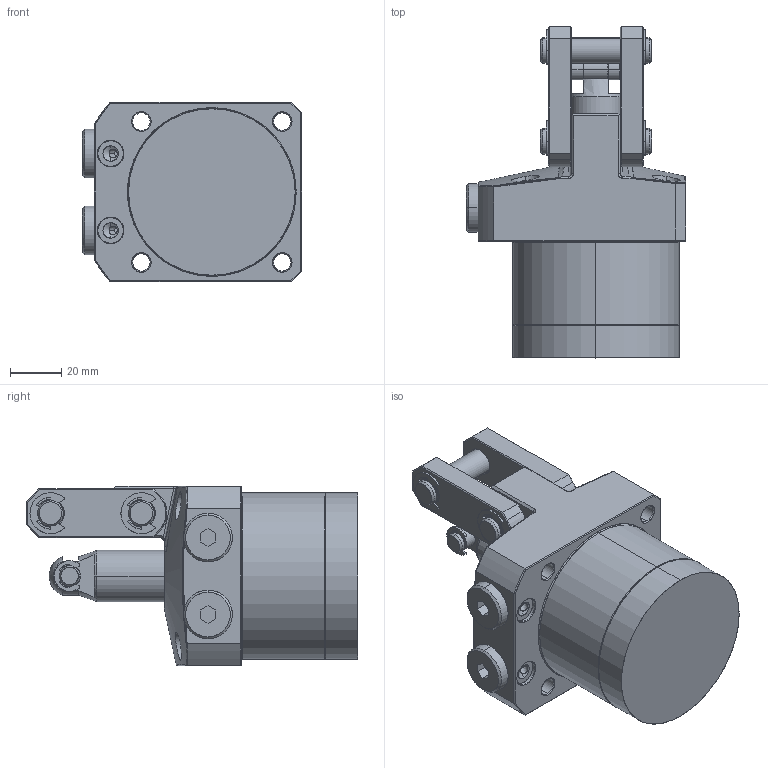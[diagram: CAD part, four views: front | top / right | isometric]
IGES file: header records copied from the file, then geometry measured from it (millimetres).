
Start section: SolidWorks IGES file using analytic representation for surfaces
Global section: file name: D:\abhilash\nijil\cylinder\LKA Series\con v lka\lk65\lk65cr\65CR PT\0402-0652.IGS; native system: SolidWorks 2010; preprocessor: SolidWorks 2010; author: nidheesh; date: 130730.102628; units: millimetre
Bounding box: 85.5 x 129.5 x 70 mm (x, y, z)
Surface area: 48686.6 mm2 (no closed solid volume)
Topology: 0 solids, 0 shells, 404 faces, 5218 edges, 5217 vertices
Faces by surface type: bspline 217, revolution 187
